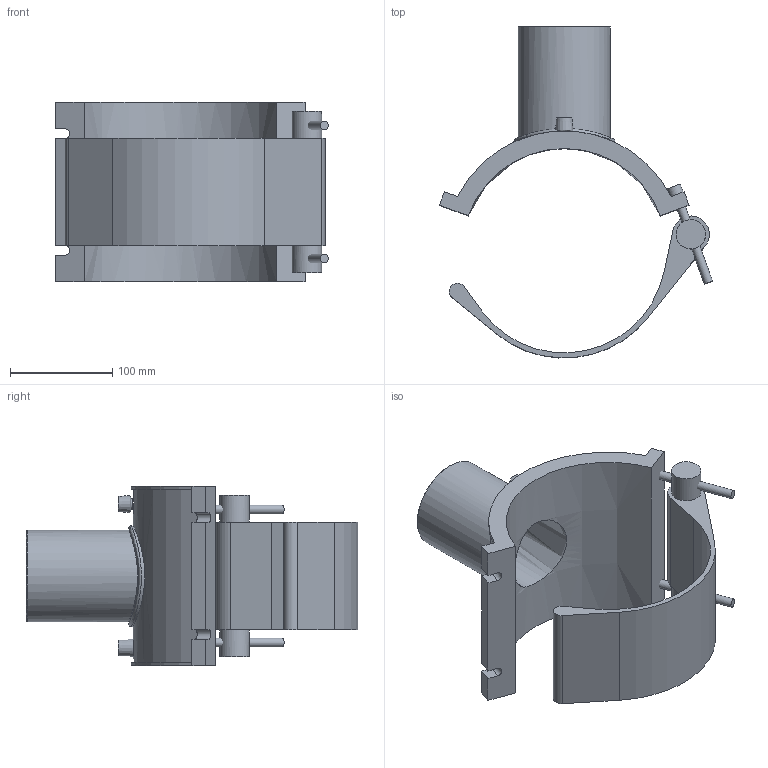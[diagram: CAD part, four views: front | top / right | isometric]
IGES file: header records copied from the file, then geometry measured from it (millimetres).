
Global section: file name: 495804200090.ipt; native system: Autodesk Inventor 2015; preprocessor: unknown; author: KIM; date: 20180426.120900; units: millimetre
Bounding box: 267.29 x 324.87 x 176 mm (x, y, z)
Volume: 1386526 mm3; surface area: 265480.9 mm2
Topology: 5 solids, 5 shells, 65 faces, 135 edges, 91 vertices
Faces by surface type: plane 37, cylinder 17, revolution 7, cone 3, bspline 1
Full cylindrical faces by diameter (mm): 4 x2, 8.4 x2, 14 x2, 28.8 x2, 90 x1, 99 x1
